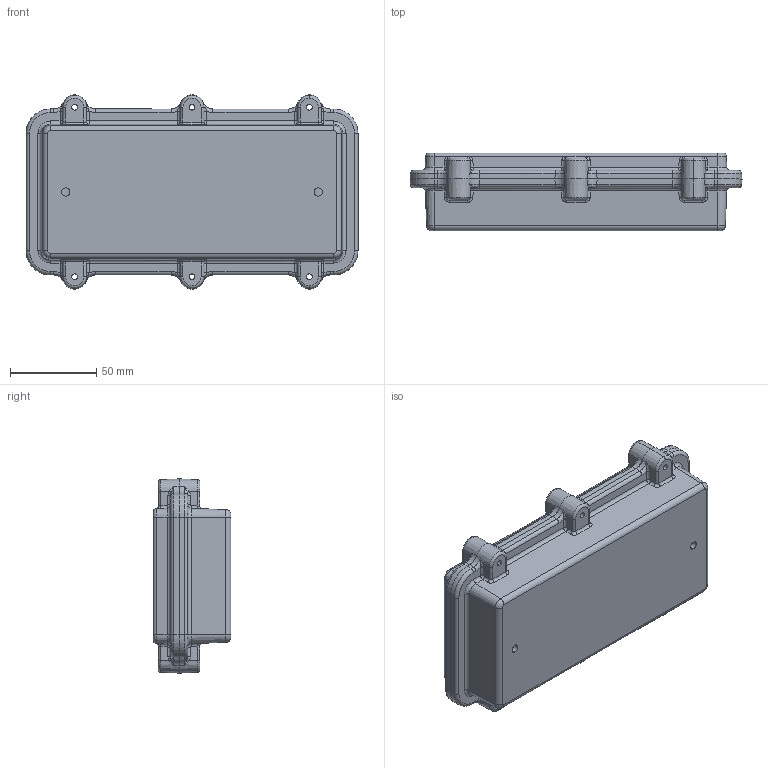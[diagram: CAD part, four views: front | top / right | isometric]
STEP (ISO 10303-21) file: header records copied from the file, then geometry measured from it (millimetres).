
FILE_DESCRIPTION (( 'STEP AP203' ), '1' );
FILE_NAME ('SE-526-0-0.STEP', '2018-09-29T12:06:36', ( '' ), ( '' ), 'SwSTEP 2.0', 'SolidWorks 2018', '' );
FILE_SCHEMA (( 'CONFIG_CONTROL_DESIGN' ));
Length unit declared in the file: millimetre
Products named in the file (3): SE-526-0-0; SE-526-P-1; SE-526-P-2
Assembly tree (2 placements, depth 2):
  SE-526-0-0
    SE-526-P-1
    SE-526-P-2
Bounding box: 192 x 44.9 x 112.3 mm (x, y, z)
Volume: 184894.9 mm3; surface area: 128771.8 mm2
Topology: 2 solids, 2 shells, 932 faces, 2226 edges, 1302 vertices
Faces by surface type: cylinder 332, bspline 212, plane 204, cone 100, torus 84
Entity records: 32853 total; most frequent: CARTESIAN_POINT 12485, ORIENTED_EDGE 4404, DIRECTION 4070, EDGE_CURVE 2202, AXIS2_PLACEMENT_3D 1591, VERTEX_POINT 1302, EDGE_LOOP 984, ADVANCED_FACE 932
